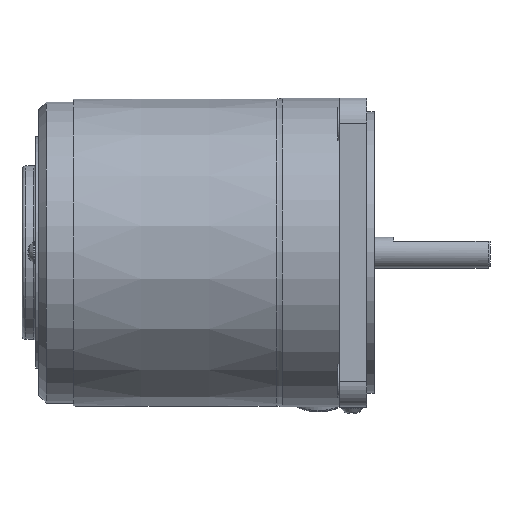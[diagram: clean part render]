
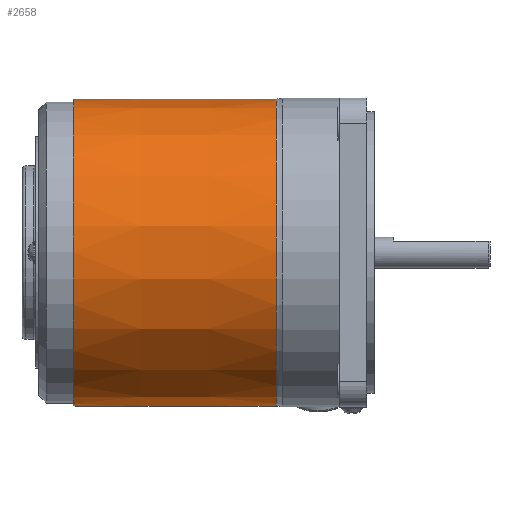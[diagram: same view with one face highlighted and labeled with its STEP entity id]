
A CAD part, top view. The second image highlights one B-rep face of the part: STEP entity #2658.
In plain terms, the highlighted conical face has half-angle 0.073 degrees and reference radius 39.784 mm.
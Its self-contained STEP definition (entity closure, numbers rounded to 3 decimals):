
#13=CONICAL_SURFACE('',#2866,39.784,0.073);
#138=FACE_BOUND('',#531,.T.);
#225=CIRCLE('',#2865,39.817);
#226=CIRCLE('',#2867,39.75);
#350=FACE_OUTER_BOUND('',#530,.T.);
#530=EDGE_LOOP('',(#1889));
#531=EDGE_LOOP('',(#1890));
#1154=VERTEX_POINT('',#4192);
#1155=VERTEX_POINT('',#4195);
#1436=EDGE_CURVE('',#1154,#1154,#225,.T.);
#1437=EDGE_CURVE('',#1155,#1155,#226,.T.);
#1889=ORIENTED_EDGE('',*,*,#1436,.F.);
#1890=ORIENTED_EDGE('',*,*,#1437,.T.);
#2658=ADVANCED_FACE('',(#350,#138),#13,.T.);
#2865=AXIS2_PLACEMENT_3D('',#4193,#3287,#3288);
#2866=AXIS2_PLACEMENT_3D('',#4194,#3289,#3290);
#2867=AXIS2_PLACEMENT_3D('',#4196,#3291,#3292);
#3287=DIRECTION('center_axis',(1.,0.,0.));
#3288=DIRECTION('ref_axis',(0.,1.,0.));
#3289=DIRECTION('center_axis',(1.,0.,0.));
#3290=DIRECTION('ref_axis',(0.,1.,0.));
#3291=DIRECTION('center_axis',(1.,0.,0.));
#3292=DIRECTION('ref_axis',(0.,1.,0.));
#4192=CARTESIAN_POINT('',(61.576,39.817,0.));
#4193=CARTESIAN_POINT('Origin',(61.576,0.,0.));
#4194=CARTESIAN_POINT('Origin',(35.288,0.,0.));
#4195=CARTESIAN_POINT('',(9.,39.75,0.));
#4196=CARTESIAN_POINT('Origin',(9.,0.,0.));
